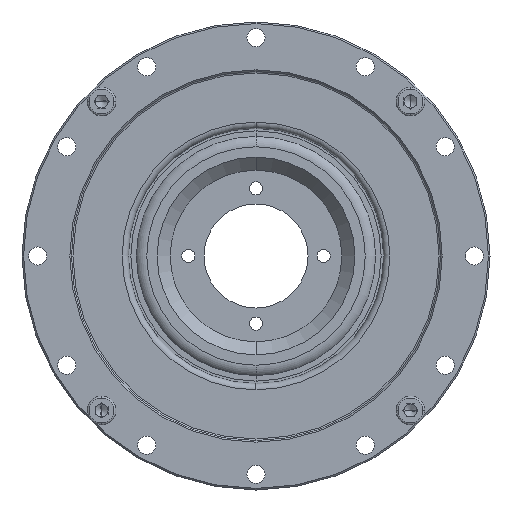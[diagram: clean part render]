
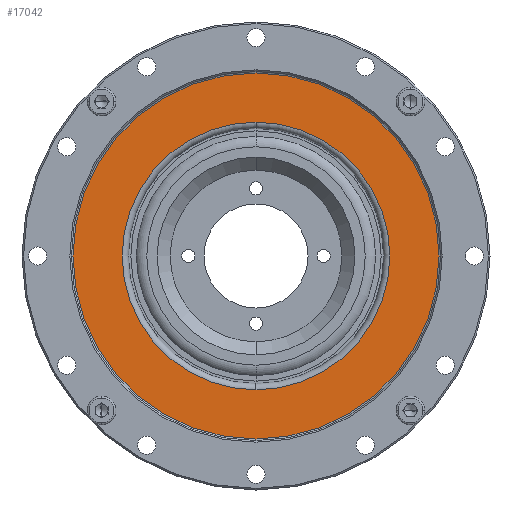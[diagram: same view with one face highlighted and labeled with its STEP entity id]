
A CAD part, left-side view. The second image highlights one B-rep face of the part: STEP entity #17042.
In plain terms, the highlighted planar face has unit normal (-1, 0, 0).
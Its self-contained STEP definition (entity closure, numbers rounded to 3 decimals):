
#461 = DIRECTION ( 'NONE',  ( -1., 0., 0. ) ) ;
#564 = CARTESIAN_POINT ( 'NONE',  ( 2.74, 0., 0. ) ) ;
#916 = AXIS2_PLACEMENT_3D ( 'NONE', #5202, #14741, #6600 ) ;
#1408 = CARTESIAN_POINT ( 'NONE',  ( 2.74, 0., 35.2 ) ) ;
#1457 = DIRECTION ( 'NONE',  ( 0., 0., -1. ) ) ;
#1562 = EDGE_LOOP ( 'NONE', ( #5984, #2945 ) ) ;
#1909 = DIRECTION ( 'NONE',  ( 0., 0., 1. ) ) ;
#2383 = CARTESIAN_POINT ( 'NONE',  ( 2.74, 0., 0. ) ) ;
#2515 = CARTESIAN_POINT ( 'NONE',  ( 2.74, 0., 25.734 ) ) ;
#2870 = CIRCLE ( 'NONE', #10589, 35.2 ) ;
#2945 = ORIENTED_EDGE ( 'NONE', *, *, #14430, .F. ) ;
#3740 = DIRECTION ( 'NONE',  ( 0., 0., 1. ) ) ;
#4927 = CARTESIAN_POINT ( 'NONE',  ( 2.74, 0., -35.2 ) ) ;
#5202 = CARTESIAN_POINT ( 'NONE',  ( 2.74, 0., 0. ) ) ;
#5795 = CARTESIAN_POINT ( 'NONE',  ( 2.74, 0., -25.734 ) ) ;
#5984 = ORIENTED_EDGE ( 'NONE', *, *, #10454, .F. ) ;
#6268 = AXIS2_PLACEMENT_3D ( 'NONE', #6627, #9587, #1457 ) ;
#6579 = PLANE ( 'NONE',  #6268 ) ;
#6600 = DIRECTION ( 'NONE',  ( 0., 0., 1. ) ) ;
#6627 = CARTESIAN_POINT ( 'NONE',  ( 2.74, 35.2, 0. ) ) ;
#6700 = EDGE_LOOP ( 'NONE', ( #7391, #12679 ) ) ;
#6829 = FACE_OUTER_BOUND ( 'NONE', #6700, .T. ) ;
#7068 = CIRCLE ( 'NONE', #916, 25.734 ) ;
#7391 = ORIENTED_EDGE ( 'NONE', *, *, #16609, .T. ) ;
#8601 = CARTESIAN_POINT ( 'NONE',  ( 2.74, 0., 0. ) ) ;
#9220 = VERTEX_POINT ( 'NONE', #5795 ) ;
#9587 = DIRECTION ( 'NONE',  ( 1., 0., 0. ) ) ;
#9905 = CIRCLE ( 'NONE', #11821, 25.734 ) ;
#9981 = DIRECTION ( 'NONE',  ( 0., 0., 1. ) ) ;
#10079 = DIRECTION ( 'NONE',  ( -1., 0., 0. ) ) ;
#10454 = EDGE_CURVE ( 'NONE', #12285, #9220, #7068, .T. ) ;
#10589 = AXIS2_PLACEMENT_3D ( 'NONE', #2383, #11918, #3740 ) ;
#10626 = VERTEX_POINT ( 'NONE', #1408 ) ;
#10902 = CIRCLE ( 'NONE', #13343, 35.2 ) ;
#10960 = VERTEX_POINT ( 'NONE', #4927 ) ;
#11821 = AXIS2_PLACEMENT_3D ( 'NONE', #564, #10079, #1909 ) ;
#11918 = DIRECTION ( 'NONE',  ( -1., 0., 0. ) ) ;
#12285 = VERTEX_POINT ( 'NONE', #2515 ) ;
#12679 = ORIENTED_EDGE ( 'NONE', *, *, #14666, .T. ) ;
#13343 = AXIS2_PLACEMENT_3D ( 'NONE', #8601, #461, #9981 ) ;
#14430 = EDGE_CURVE ( 'NONE', #9220, #12285, #9905, .T. ) ;
#14485 = FACE_BOUND ( 'NONE', #1562, .T. ) ;
#14666 = EDGE_CURVE ( 'NONE', #10960, #10626, #2870, .T. ) ;
#14741 = DIRECTION ( 'NONE',  ( -1., 0., 0. ) ) ;
#16609 = EDGE_CURVE ( 'NONE', #10626, #10960, #10902, .T. ) ;
#17042 = ADVANCED_FACE ( 'NONE', ( #14485, #6829 ), #6579, .F. ) ;
